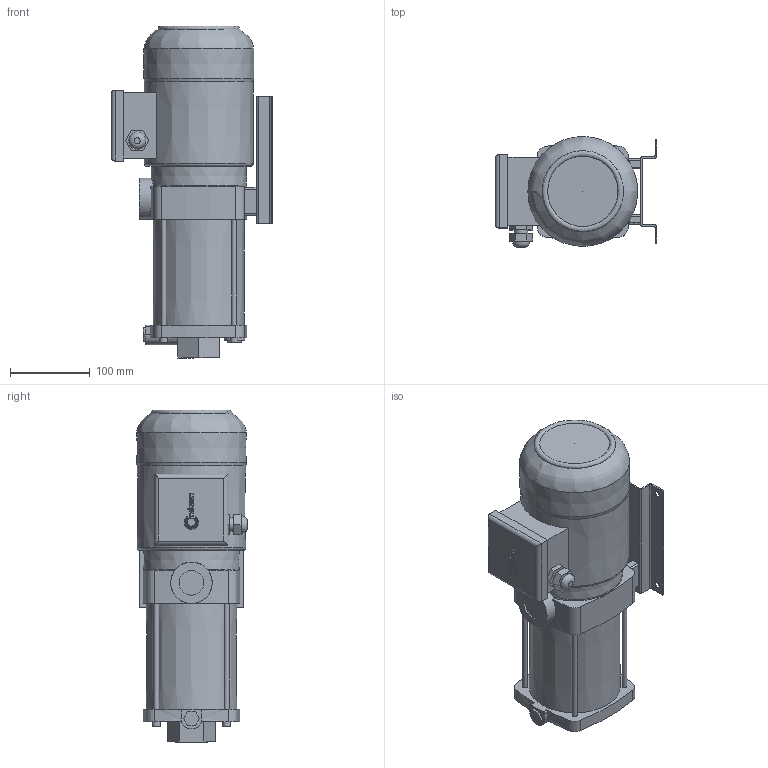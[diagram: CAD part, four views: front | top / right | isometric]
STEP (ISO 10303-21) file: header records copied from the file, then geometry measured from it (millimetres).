
FILE_DESCRIPTION(/* description */ ('Unknown'),/* implementation_level */ '2;1');
FILE_NAME(/* name */ 'hc05',/* time_stamp */ '2025-06-17T14:11:37+03:00',/* author */ ('Unknown'),/* organization */ ('Unknown'),/* preprocessor_version */ 'ST-DEVELOPER v16.7',/* originating_system */ 'DEX',/* authorisation */ $);
FILE_SCHEMA (('AUTOMOTIVE_DESIGN {1 0 10303 214 3 1 1}'));
Length unit declared in the file: millimetre
Products named in the file (1): hc05
Bounding box: 203 x 139.29 x 417.08 mm (x, y, z)
Volume: 5478977.8 mm3; surface area: 289356.2 mm2
Topology: 1 solids, 1 shells, 254 faces, 664 edges, 441 vertices
Faces by surface type: plane 105, bspline 71, cylinder 63, cone 12, torus 3
Full cylindrical faces by diameter (mm): 6 x4, 9 x4, 9.5 x4, 17 x1, 21.5 x1, 26 x1, 31 x1, 39.268 x1, 52 x1
Entity records: 11133 total; most frequent: CARTESIAN_POINT 5390, ORIENTED_EDGE 1246, DIRECTION 975, EDGE_CURVE 623, VERTEX_POINT 430, AXIS2_PLACEMENT_3D 333, FACE_BOUND 331, EDGE_LOOP 330
